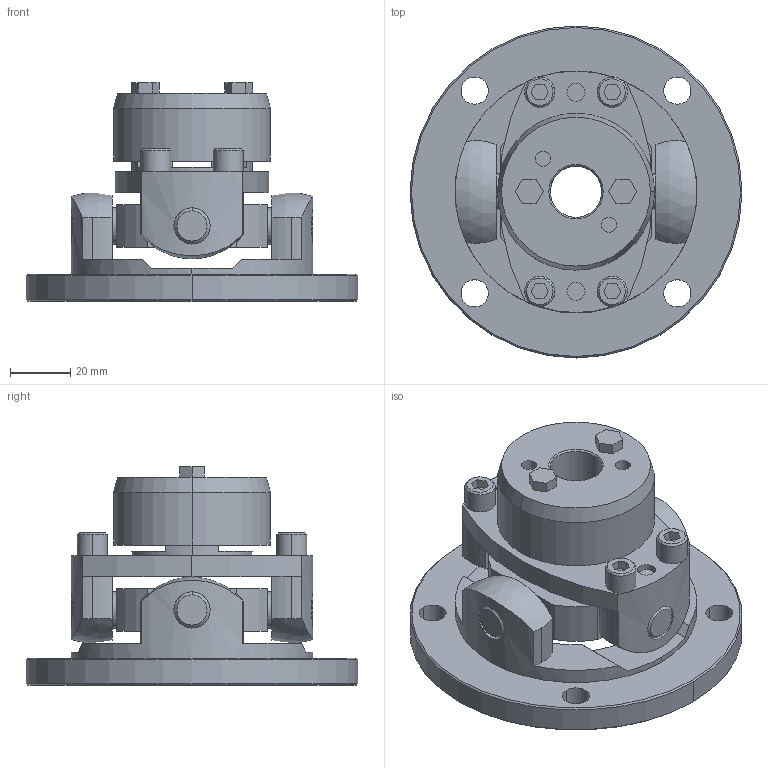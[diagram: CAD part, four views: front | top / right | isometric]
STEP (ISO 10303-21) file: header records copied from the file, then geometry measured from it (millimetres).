
FILE_DESCRIPTION((''),'2;1');
FILE_NAME('UCNF-80T7-17.stp','2011-09-17T16:22:00',(''),(''),'AutoCAD STEP 2000i','AutoCAD 2000i',', , ');
FILE_SCHEMA(('CONFIG_CONTROL_DESIGN'));
Length unit declared in the file: millimetre
Products named in the file (6): UCNF-80T7-17; 忣兜1; UCNF-8002; UCN80T7-T017-1; UCN80T7-T017; UCN80-SEN
Assembly tree (5 placements, depth 2):
  UCNF-80T7-17
    忣兜1
    UCNF-8002
    UCN80T7-T017-1
    UCN80T7-T017
    UCN80-SEN
Bounding box: 110 x 110 x 72.5 mm (x, y, z)
Volume: 194399.9 mm3; surface area: 54529.2 mm2
Topology: 1 solids, 1 shells, 268 faces, 670 edges, 436 vertices
Faces by surface type: plane 122, cylinder 104, cone 38, sphere 4
Entity records: 8653 total; most frequent: CARTESIAN_POINT 1784, DIRECTION 1500, ORIENTED_EDGE 1340, EDGE_CURVE 670, AXIS2_PLACEMENT_3D 572, VERTEX_POINT 436, VECTOR 356, LINE 356
